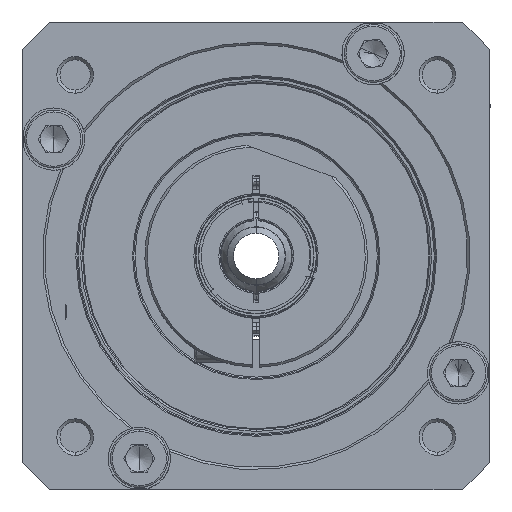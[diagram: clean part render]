
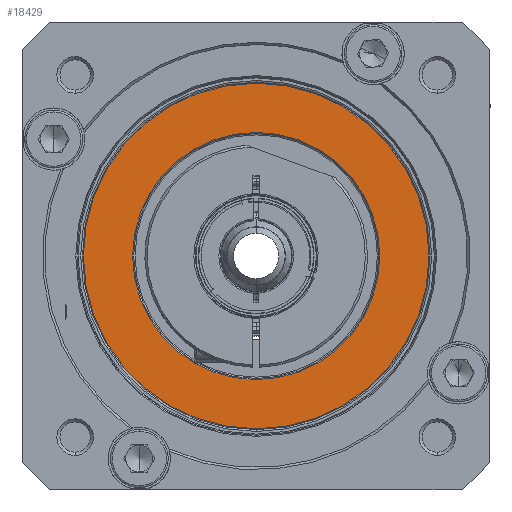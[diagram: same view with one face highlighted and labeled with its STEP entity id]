
A CAD part, left-side view. The second image highlights one B-rep face of the part: STEP entity #18429.
In plain terms, the highlighted planar face has unit normal (-1, 0, 0).
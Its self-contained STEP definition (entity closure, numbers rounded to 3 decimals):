
#615 = EDGE_CURVE ( 'NONE', #22216, #60006, #35033, .T. ) ;
#2346 = ORIENTED_EDGE ( 'NONE', *, *, #31938, .T. ) ;
#3285 = DIRECTION ( 'NONE',  ( 1., 0., 0. ) ) ;
#3989 = VERTEX_POINT ( 'NONE', #47632 ) ;
#4042 = ORIENTED_EDGE ( 'NONE', *, *, #44628, .T. ) ;
#4145 = DIRECTION ( 'NONE',  ( 1., 0., 0. ) ) ;
#5539 = AXIS2_PLACEMENT_3D ( 'NONE', #53036, #53948, #38866 ) ;
#5761 = DIRECTION ( 'NONE',  ( 0., 0., -1. ) ) ;
#6722 = VERTEX_POINT ( 'NONE', #39316 ) ;
#12876 = CARTESIAN_POINT ( 'NONE',  ( -150.5, 0., 38.799 ) ) ;
#13407 = DIRECTION ( 'NONE',  ( 0., 0., -1. ) ) ;
#13495 = CIRCLE ( 'NONE', #40153, 27.75 ) ;
#15396 = CARTESIAN_POINT ( 'NONE',  ( -150.5, 0., -38.799 ) ) ;
#18394 = DIRECTION ( 'NONE',  ( 0., 0., -1. ) ) ;
#18429 = ADVANCED_FACE ( 'NONE', ( #29644, #25043 ), #39277, .F. ) ;
#21630 = DIRECTION ( 'NONE',  ( 1., 0., 0. ) ) ;
#22216 = VERTEX_POINT ( 'NONE', #12876 ) ;
#24177 = AXIS2_PLACEMENT_3D ( 'NONE', #25180, #29205, #5761 ) ;
#25043 = FACE_BOUND ( 'NONE', #34169, .T. ) ;
#25180 = CARTESIAN_POINT ( 'NONE',  ( -150.5, 0., 0. ) ) ;
#25188 = CIRCLE ( 'NONE', #27172, 27.75 ) ;
#26898 = ORIENTED_EDGE ( 'NONE', *, *, #615, .T. ) ;
#27172 = AXIS2_PLACEMENT_3D ( 'NONE', #60913, #4145, #13407 ) ;
#29205 = DIRECTION ( 'NONE',  ( -1., 0., 0. ) ) ;
#29644 = FACE_OUTER_BOUND ( 'NONE', #47307, .T. ) ;
#30281 = AXIS2_PLACEMENT_3D ( 'NONE', #31217, #21630, #32426 ) ;
#31217 = CARTESIAN_POINT ( 'NONE',  ( -150.5, 27.5, 0. ) ) ;
#31938 = EDGE_CURVE ( 'NONE', #6722, #3989, #25188, .T. ) ;
#32426 = DIRECTION ( 'NONE',  ( 0., 0., -1. ) ) ;
#34169 = EDGE_LOOP ( 'NONE', ( #51580, #2346 ) ) ;
#35033 = CIRCLE ( 'NONE', #24177, 38.799 ) ;
#35108 = CIRCLE ( 'NONE', #5539, 38.799 ) ;
#36934 = CARTESIAN_POINT ( 'NONE',  ( -150.5, 0., 0. ) ) ;
#38866 = DIRECTION ( 'NONE',  ( 0., 0., -1. ) ) ;
#39277 = PLANE ( 'NONE',  #30281 ) ;
#39316 = CARTESIAN_POINT ( 'NONE',  ( -150.5, 0., -27.75 ) ) ;
#40153 = AXIS2_PLACEMENT_3D ( 'NONE', #36934, #3285, #18394 ) ;
#44628 = EDGE_CURVE ( 'NONE', #60006, #22216, #35108, .T. ) ;
#45314 = EDGE_CURVE ( 'NONE', #3989, #6722, #13495, .T. ) ;
#47307 = EDGE_LOOP ( 'NONE', ( #4042, #26898 ) ) ;
#47632 = CARTESIAN_POINT ( 'NONE',  ( -150.5, 0., 27.75 ) ) ;
#51580 = ORIENTED_EDGE ( 'NONE', *, *, #45314, .T. ) ;
#53036 = CARTESIAN_POINT ( 'NONE',  ( -150.5, 0., 0. ) ) ;
#53948 = DIRECTION ( 'NONE',  ( -1., 0., 0. ) ) ;
#60006 = VERTEX_POINT ( 'NONE', #15396 ) ;
#60913 = CARTESIAN_POINT ( 'NONE',  ( -150.5, 0., 0. ) ) ;
